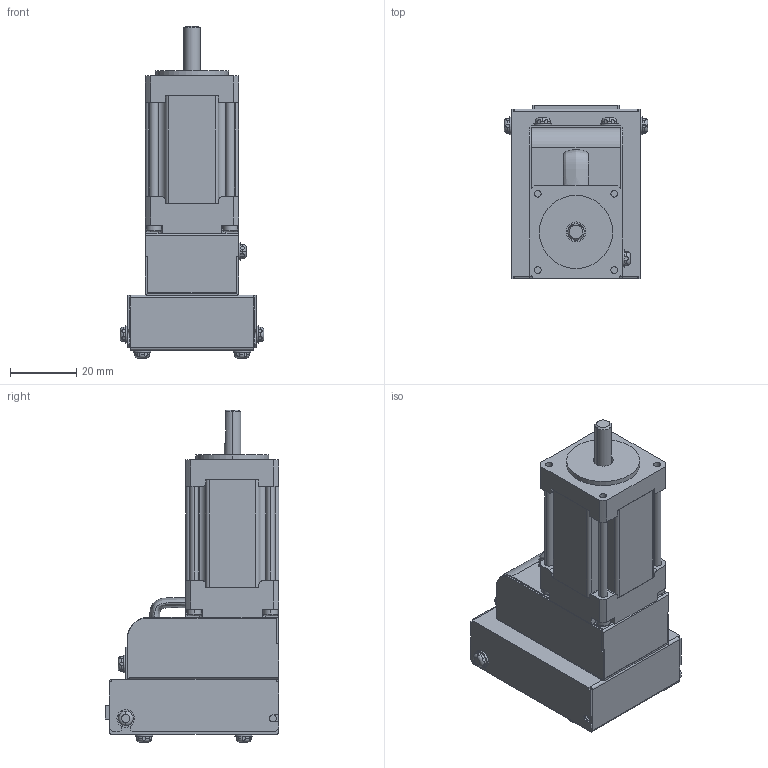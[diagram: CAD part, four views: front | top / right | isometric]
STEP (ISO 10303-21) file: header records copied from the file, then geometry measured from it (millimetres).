
FILE_DESCRIPTION (( 'STEP AP203' ), '1' );
FILE_NAME ('CM1-X-11L30.STEP', '2010-05-14T19:42:21', ( 'render' ), ( '' ), 'SwSTEP 2.0', 'SolidWorks 2009', '' );
FILE_SCHEMA (( 'CONFIG_CONTROL_DESIGN' ));
Length unit declared in the file: millimetre
Products named in the file (1): CM1-X-11L30
Bounding box: 43.2 x 52.3 x 99.9 mm (x, y, z)
Volume: 69873.3 mm3; surface area: 34512.7 mm2
Topology: 30 solids, 30 shells, 851 faces, 2170 edges, 1392 vertices
Faces by surface type: plane 573, cylinder 245, torus 28, cone 3, bspline 2
Entity records: 26048 total; most frequent: CARTESIAN_POINT 5088, ORIENTED_EDGE 4340, DIRECTION 4314, EDGE_CURVE 2170, LINE 1610, VECTOR 1610, VERTEX_POINT 1392, AXIS2_PLACEMENT_3D 1352
